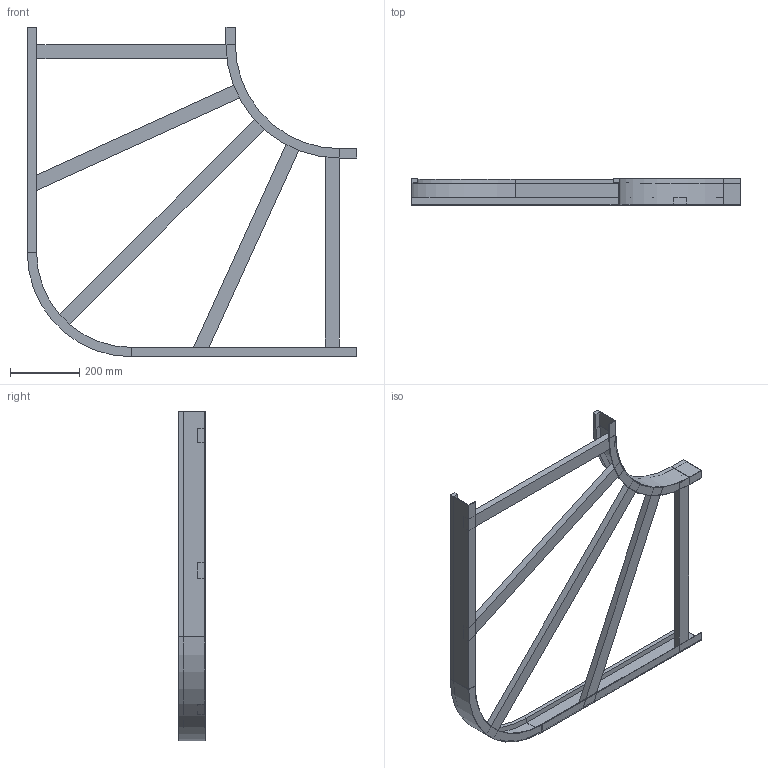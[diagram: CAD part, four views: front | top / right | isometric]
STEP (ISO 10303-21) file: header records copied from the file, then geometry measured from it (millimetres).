
FILE_DESCRIPTION (( 'STEP AP214' ), '1' );
FILE_NAME ('B2_10B3C600.step', '2025-02-21T15:27:05', ( '' ), ( '' ), 'SwSTEP 2.0', 'SolidWorks 2023', '' );
FILE_SCHEMA (( 'AUTOMOTIVE_DESIGN' ));
Length unit declared in the file: millimetre
Products named in the file (6): TRAVERSINO_700_SCANTONATO; B2_10B3C600; TRAVERSINO_L843; TRAVERSINO_600; B2_LONGH.ESTERNO 90°_H75_R300+600; B2_LONGH.INTERNO 90°_H75_R300
Assembly tree (7 placements, depth 2):
  B2_10B3C600
    B2_LONGH.INTERNO 90°_H75_R300
    B2_LONGH.ESTERNO 90°_H75_R300+600
    TRAVERSINO_600  x2
    TRAVERSINO_700_SCANTONATO  x2
    TRAVERSINO_L843
Bounding box: 950 x 75 x 950 mm (x, y, z)
Volume: 3676706.3 mm3; surface area: 974719.3 mm2
Topology: 7 solids, 7 shells, 82 faces, 172 edges, 104 vertices
Faces by surface type: plane 74, cylinder 8
Entity records: 2015 total; most frequent: DIRECTION 324, CARTESIAN_POINT 316, ORIENTED_EDGE 296, EDGE_CURVE 148, VECTOR 132, LINE 132, AXIS2_PLACEMENT_3D 96, VERTEX_POINT 88
